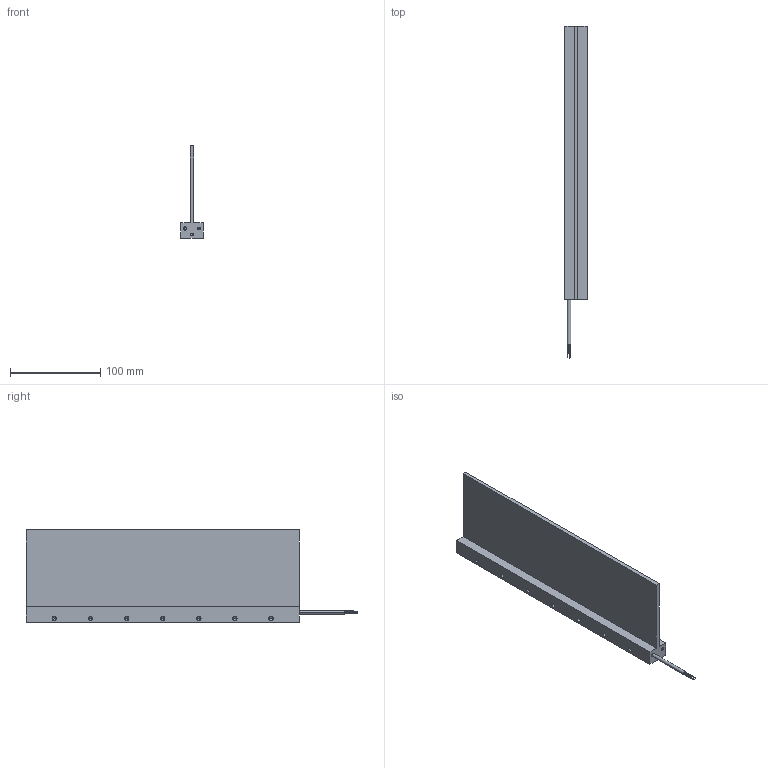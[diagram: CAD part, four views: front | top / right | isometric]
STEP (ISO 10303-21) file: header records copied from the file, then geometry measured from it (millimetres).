
FILE_DESCRIPTION((''),'2;1');
FILE_NAME('IL18-075','2006-04-05T',('saurabh.singhal'),('Kollmorgen'),'PRO/ENGINEER BY PARAMETRIC TECHNOLOGY CORPORATION, 2005310','PRO/ENGINEER BY PARAMETRIC TECHNOLOGY CORPORATION, 2005310','');
FILE_SCHEMA(('CONFIG_CONTROL_DESIGN'));
Length unit declared in the file: millimetre
Products named in the file (1): IL18-075
Bounding box: 24.4 x 367.82 x 102.3 mm (x, y, z)
Volume: 237886.6 mm3; surface area: 83241.6 mm2
Topology: 1 solids, 29 shells, 245 faces, 606 edges, 376 vertices
Faces by surface type: cylinder 138, cone 56, plane 51
Entity records: 7003 total; most frequent: DIRECTION 1374, CARTESIAN_POINT 1172, ORIENTED_EDGE 988, AXIS2_PLACEMENT_3D 578, EDGE_CURVE 550, VERTEX_POINT 376, CIRCLE 332, EDGE_LOOP 314
